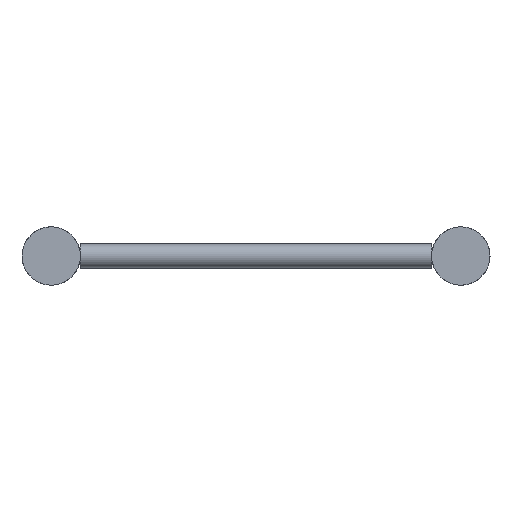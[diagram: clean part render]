
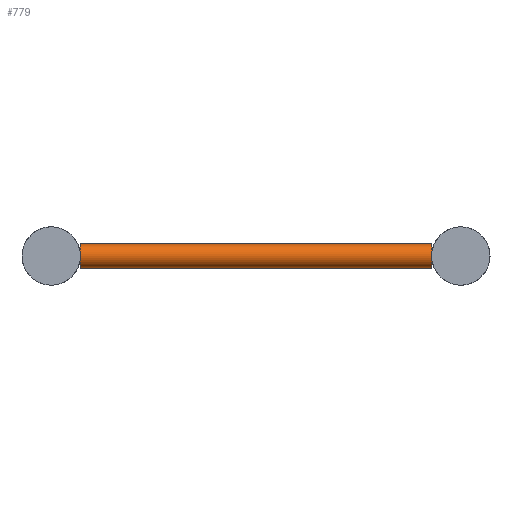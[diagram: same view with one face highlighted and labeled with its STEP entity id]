
A CAD part, left-side view. The second image highlights one B-rep face of the part: STEP entity #779.
In plain terms, the highlighted cylindrical face has radius 10 mm (diameter 20 mm), a full revolution.
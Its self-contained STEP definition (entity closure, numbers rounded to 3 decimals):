
#53=CIRCLE('',#871,10.);
#54=CIRCLE('',#873,10.);
#55=CIRCLE('',#875,10.);
#56=CIRCLE('',#877,10.);
#96=FACE_BOUND('',#262,.T.);
#143=CYLINDRICAL_SURFACE('',#876,10.);
#185=FACE_OUTER_BOUND('',#261,.T.);
#261=EDGE_LOOP('',(#536,#537));
#262=EDGE_LOOP('',(#538,#539));
#374=VERTEX_POINT('',#1247);
#375=VERTEX_POINT('',#1248);
#376=VERTEX_POINT('',#1252);
#377=VERTEX_POINT('',#1253);
#443=EDGE_CURVE('',#375,#374,#53,.T.);
#445=EDGE_CURVE('',#377,#376,#54,.T.);
#446=EDGE_CURVE('',#374,#375,#55,.T.);
#447=EDGE_CURVE('',#376,#377,#56,.T.);
#536=ORIENTED_EDGE('',*,*,#443,.T.);
#537=ORIENTED_EDGE('',*,*,#446,.T.);
#538=ORIENTED_EDGE('',*,*,#445,.T.);
#539=ORIENTED_EDGE('',*,*,#447,.T.);
#779=ADVANCED_FACE('',(#185,#96),#143,.T.);
#871=AXIS2_PLACEMENT_3D('',#1250,#1031,#1032);
#873=AXIS2_PLACEMENT_3D('',#1255,#1036,#1037);
#875=AXIS2_PLACEMENT_3D('',#1257,#1040,#1041);
#876=AXIS2_PLACEMENT_3D('',#1258,#1042,#1043);
#877=AXIS2_PLACEMENT_3D('',#1259,#1044,#1045);
#1031=DIRECTION('center_axis',(0.,1.,0.));
#1032=DIRECTION('ref_axis',(-1.,0.,0.));
#1036=DIRECTION('center_axis',(0.,-1.,0.));
#1037=DIRECTION('ref_axis',(-1.,0.,0.));
#1040=DIRECTION('center_axis',(0.,1.,0.));
#1041=DIRECTION('ref_axis',(-1.,0.,0.));
#1042=DIRECTION('center_axis',(0.,1.,0.));
#1043=DIRECTION('ref_axis',(-1.,0.,0.));
#1044=DIRECTION('center_axis',(0.,-1.,0.));
#1045=DIRECTION('ref_axis',(-1.,0.,0.));
#1247=CARTESIAN_POINT('',(50.,24.15,0.));
#1248=CARTESIAN_POINT('',(70.,24.15,0.));
#1250=CARTESIAN_POINT('Origin',(60.,24.15,0.));
#1252=CARTESIAN_POINT('',(50.,314.85,0.));
#1253=CARTESIAN_POINT('',(70.,314.85,0.));
#1255=CARTESIAN_POINT('Origin',(60.,314.85,0.));
#1257=CARTESIAN_POINT('Origin',(60.,24.15,0.));
#1258=CARTESIAN_POINT('Origin',(60.,169.5,0.));
#1259=CARTESIAN_POINT('Origin',(60.,314.85,0.));
